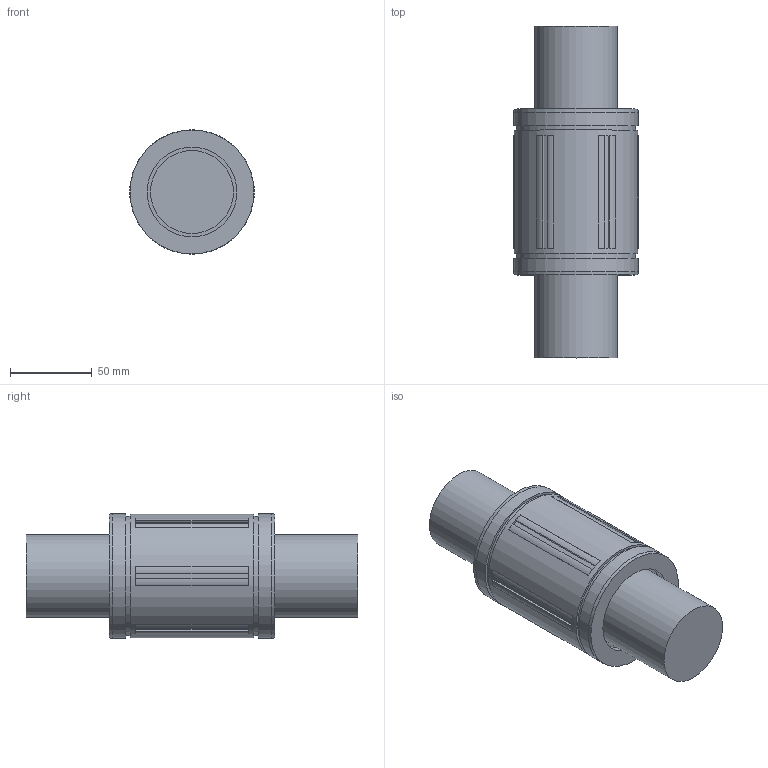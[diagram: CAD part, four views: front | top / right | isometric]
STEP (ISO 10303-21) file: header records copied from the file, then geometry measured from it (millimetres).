
FILE_DESCRIPTION((''),'2;1');
FILE_NAME('D:\STEP\SUPER\LMBS\LMBS32.stp','2013-02-14T08:05:35',('user2'),(''),'Autodesk Inventor 2012','Autodesk Inventor 2012','');
FILE_SCHEMA(('AUTOMOTIVE_DESIGN { 1 0 10303 214 1 1 1 1 }'));
Length unit declared in the file: millimetre
Products named in the file (1): LMBS32
Bounding box: 76.2 x 203.2 x 76.2 mm (x, y, z)
Volume: 659905.2 mm3; surface area: 55551.9 mm2
Topology: 1 solids, 1 shells, 123 faces, 274 edges, 166 vertices
Faces by surface type: plane 100, cylinder 21, cone 2
Full cylindrical faces by diameter (mm): 50.8 x2, 55 x2, 72.9 x2, 75.9 x1, 76.2 x2
Entity records: 3368 total; most frequent: DIRECTION 636, CARTESIAN_POINT 548, ORIENTED_EDGE 520, EDGE_CURVE 260, AXIS2_PLACEMENT_3D 252, VERTEX_POINT 164, EDGE_LOOP 148, VECTOR 132
